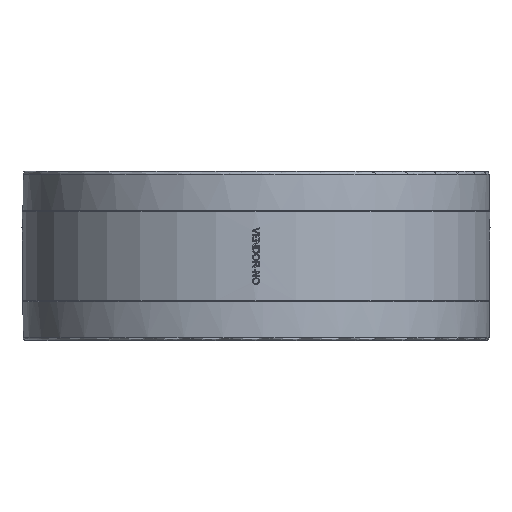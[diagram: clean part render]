
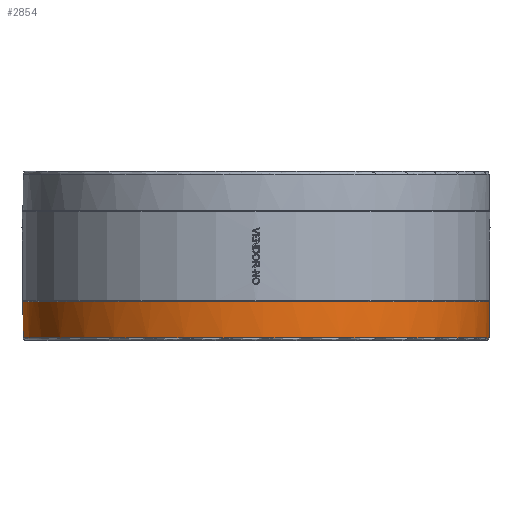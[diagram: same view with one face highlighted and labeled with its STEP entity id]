
A CAD part, front view. The second image highlights one B-rep face of the part: STEP entity #2854.
In plain terms, the highlighted cylindrical face has radius 82.5 mm (diameter 165 mm), a full revolution.
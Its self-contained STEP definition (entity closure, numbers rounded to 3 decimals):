
#2854 = ADVANCED_FACE( '', ( #6385, #6386 ), #6387, .T. );
#6385 = FACE_OUTER_BOUND( '', #13143, .T. );
#6386 = FACE_OUTER_BOUND( '', #13144, .T. );
#6387 = CYLINDRICAL_SURFACE( '', #13145, 82.5 );
#13143 = EDGE_LOOP( '', ( #21552 ) );
#13144 = EDGE_LOOP( '', ( #21553, #21554, #21555, #21556, #21557, #21558 ) );
#13145 = AXIS2_PLACEMENT_3D( '', #21559, #21560, #21561 );
#21552 = ORIENTED_EDGE( '', *, *, #33311, .T. );
#21553 = ORIENTED_EDGE( '', *, *, #33312, .T. );
#21554 = ORIENTED_EDGE( '', *, *, #33313, .T. );
#21555 = ORIENTED_EDGE( '', *, *, #33314, .T. );
#21556 = ORIENTED_EDGE( '', *, *, #33315, .F. );
#21557 = ORIENTED_EDGE( '', *, *, #33316, .T. );
#21558 = ORIENTED_EDGE( '', *, *, #33317, .T. );
#21559 = CARTESIAN_POINT( '', ( 0., 0., 30. ) );
#21560 = DIRECTION( '', ( 0., 0., 1. ) );
#21561 = DIRECTION( '', ( -1., 0., 0. ) );
#33311 = EDGE_CURVE( '', #38889, #38889, #38890, .T. );
#33312 = EDGE_CURVE( '', #38891, #38892, #38893, .T. );
#33313 = EDGE_CURVE( '', #38892, #38894, #38895, .T. );
#33314 = EDGE_CURVE( '', #38894, #38896, #38897, .T. );
#33315 = EDGE_CURVE( '', #38898, #38896, #38899, .T. );
#33316 = EDGE_CURVE( '', #38898, #38900, #38901, .T. );
#33317 = EDGE_CURVE( '', #38900, #38891, #38902, .T. );
#38889 = VERTEX_POINT( '', #47476 );
#38890 = CIRCLE( '', #47477, 82.5 );
#38891 = VERTEX_POINT( '', #47478 );
#38892 = VERTEX_POINT( '', #47479 );
#38893 = CIRCLE( '', #47480, 82.5 );
#38894 = VERTEX_POINT( '', #47481 );
#38895 = LINE( '', #47482, #47483 );
#38896 = VERTEX_POINT( '', #47484 );
#38897 = ELLIPSE( '', #47485, 116.673, 82.5 );
#38898 = VERTEX_POINT( '', #47486 );
#38899 = CIRCLE( '', #47487, 82.5 );
#38900 = VERTEX_POINT( '', #47488 );
#38901 = ELLIPSE( '', #47489, 116.673, 82.5 );
#38902 = LINE( '', #47490, #47491 );
#47476 = CARTESIAN_POINT( '', ( 82.5, 0., -29. ) );
#47477 = AXIS2_PLACEMENT_3D( '', #56891, #56892, #56893 );
#47478 = CARTESIAN_POINT( '', ( -20.156, 80., -16.55 ) );
#47479 = CARTESIAN_POINT( '', ( 20.156, 80., -16.55 ) );
#47480 = AXIS2_PLACEMENT_3D( '', #56894, #56895, #56896 );
#47481 = CARTESIAN_POINT( '', ( 20.156, 80., -15.85 ) );
#47482 = CARTESIAN_POINT( '', ( 20.156, 80., 30. ) );
#47483 = VECTOR( '', #56897, 1000. );
#47484 = CARTESIAN_POINT( '', ( 21.123, 79.75, -16.1 ) );
#47485 = AXIS2_PLACEMENT_3D( '', #56898, #56899, #56900 );
#47486 = CARTESIAN_POINT( '', ( -21.123, 79.75, -16.1 ) );
#47487 = AXIS2_PLACEMENT_3D( '', #56901, #56902, #56903 );
#47488 = CARTESIAN_POINT( '', ( -20.156, 80., -15.85 ) );
#47489 = AXIS2_PLACEMENT_3D( '', #56904, #56905, #56906 );
#47490 = CARTESIAN_POINT( '', ( -20.156, 80., 30. ) );
#47491 = VECTOR( '', #56907, 1000. );
#56891 = CARTESIAN_POINT( '', ( 0., 0., -29. ) );
#56892 = DIRECTION( '', ( 0., 0., 1. ) );
#56893 = DIRECTION( '', ( 1., 0., 0. ) );
#56894 = CARTESIAN_POINT( '', ( 0., 0., -16.55 ) );
#56895 = DIRECTION( '', ( 0., 0., -1. ) );
#56896 = DIRECTION( '', ( -1., 0., 0. ) );
#56897 = DIRECTION( '', ( 0., 0., 1. ) );
#56898 = CARTESIAN_POINT( '', ( 0., 0., -95.85 ) );
#56899 = DIRECTION( '', ( 0., 0.707, -0.707 ) );
#56900 = DIRECTION( '', ( 0., -0.707, -0.707 ) );
#56901 = CARTESIAN_POINT( '', ( 0., 0., -16.1 ) );
#56902 = DIRECTION( '', ( 0., 0., 1. ) );
#56903 = DIRECTION( '', ( 1., 0., 0. ) );
#56904 = CARTESIAN_POINT( '', ( 0., 0., -95.85 ) );
#56905 = DIRECTION( '', ( 0., 0.707, -0.707 ) );
#56906 = DIRECTION( '', ( 0., -0.707, -0.707 ) );
#56907 = DIRECTION( '', ( 0., 0., -1. ) );
